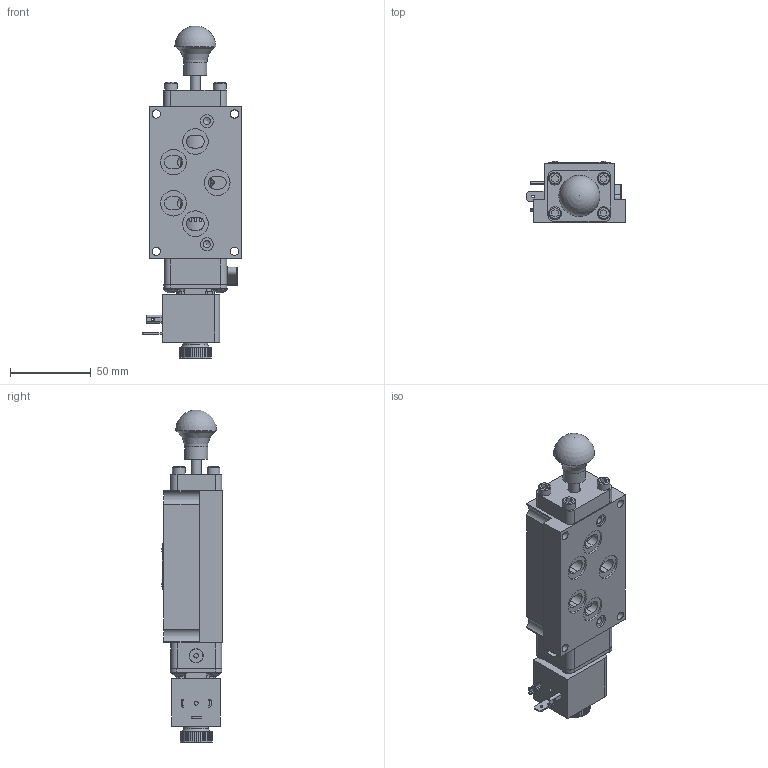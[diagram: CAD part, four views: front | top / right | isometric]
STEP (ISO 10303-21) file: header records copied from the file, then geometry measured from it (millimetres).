
FILE_DESCRIPTION(/* description */ (''),/* implementation_level */ '2;1');
FILE_NAME(/* name */ 'ESO3PHOLOSZ.stp',/* time_stamp */ '2026-08-07T06:00:13-04:00',/* author */ ('rmckenna'),/* organization */ (''),/* preprocessor_version */ 'ST-DEVELOPER v20.1',/* originating_system */ 'Autodesk Inventor 2026',/* authorisation */ '');
FILE_SCHEMA (('AUTOMOTIVE_DESIGN { 1 0 10303 214 3 1 1 }'));
Products named in the file (1): Part14
Bounding box: 61.32 x 37.86 x 205.33 mm (x, y, z)
Volume: 211130.7 mm3; surface area: 71917 mm2
Topology: 2 solids, 29 shells, 1555 faces, 3834 edges, 2449 vertices
Faces by surface type: plane 724, cylinder 441, cone 222, torus 116, bspline 45, sphere 7
Full cylindrical faces by diameter (mm): 1.3 x1, 1.397 x1, 1.5 x1, 1.651 x2, 2.032 x8, 2.07 x2, 2.261 x2, 2.35 x4, 2.5 x2, 2.778 x2, 2.8 x1, 3 x4, 3.048 x2, 3.175 x1, 3.4 x1, 3.683 x9, 3.861 x2, 4.191 x2, 4.366 x2, 4.369 x3, 4.826 x8, 4.978 x1, 5.105 x4, 5.15 x4, 5.156 x8, 5.159 x4, 5.5 x1, 6.35 x4, 6.65 x1, 7.315 x1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
Entity records: 50890 total; most frequent: CARTESIAN_POINT 12158, DIRECTION 7783, ORIENTED_EDGE 7626, EDGE_CURVE 3813, AXIS2_PLACEMENT_3D 2935, VERTEX_POINT 2448, LINE 1913, VECTOR 1913
